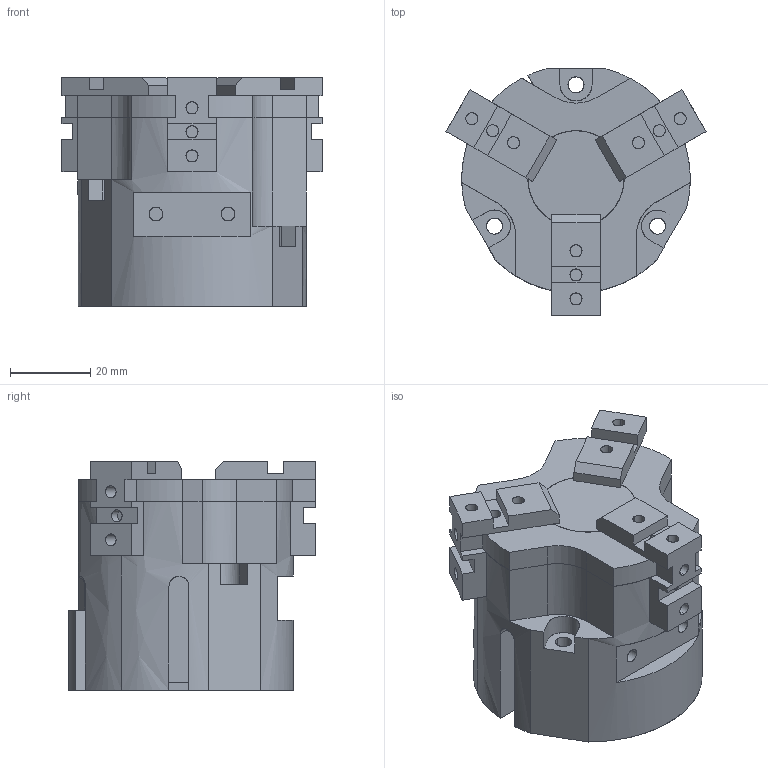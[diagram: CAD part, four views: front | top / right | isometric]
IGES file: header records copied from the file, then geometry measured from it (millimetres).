
Global section: file name: C:\Documents and Settings\Administrateur\Mes documents\OPE-60-3-OPEN.igs; native system: AutoCAD-16.0s (LMS Tech) (Microsoft Windows NT Version 5.1 (x86)); preprocessor: Autodesk IGES Translator Mechanical Desktop.R7.0.43.0 (Mar 18 2003) from Autodesk, Inc.; date: 20051205.105149; units: millimetre
Bounding box: 64.89 x 61.5 x 57 mm (x, y, z)
Surface area: 35827.9 mm2 (no closed solid volume)
Topology: 0 solids, 0 shells, 304 faces, 3194 edges, 3262 vertices
Faces by surface type: bspline 304
